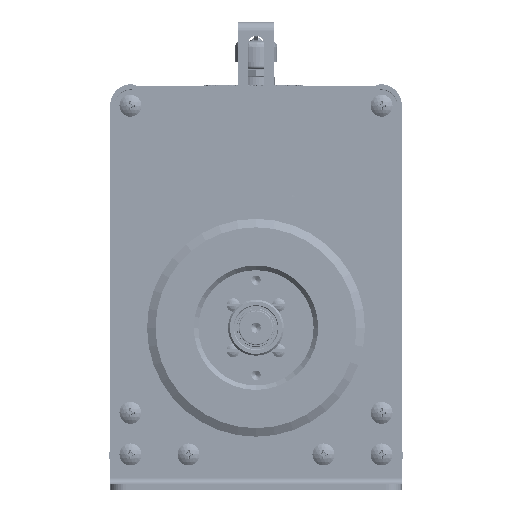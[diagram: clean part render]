
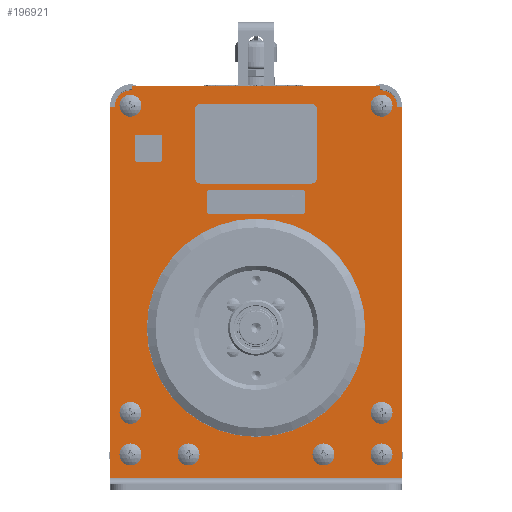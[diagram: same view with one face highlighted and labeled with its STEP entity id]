
A CAD part, front view. The second image highlights one B-rep face of the part: STEP entity #196921.
In plain terms, the highlighted planar face has unit normal (0, -1, 0).
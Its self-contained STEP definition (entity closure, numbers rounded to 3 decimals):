
#13753=LINE('',#389904,#34014);
#13754=LINE('',#389907,#34015);
#13755=LINE('',#389909,#34016);
#13756=LINE('',#389913,#34017);
#13757=LINE('',#389915,#34018);
#13758=LINE('',#389917,#34019);
#13759=LINE('',#389921,#34020);
#13760=LINE('',#389923,#34021);
#34014=VECTOR('',#263825,1000.);
#34015=VECTOR('',#263826,1000.);
#34016=VECTOR('',#263827,1000.);
#34017=VECTOR('',#263830,1000.);
#34018=VECTOR('',#263831,1000.);
#34019=VECTOR('',#263832,1000.);
#34020=VECTOR('',#263835,1000.);
#34021=VECTOR('',#263836,1000.);
#49858=PLANE('',#235013);
#82425=ORIENTED_EDGE('',*,*,#127519,.F.);
#82426=ORIENTED_EDGE('',*,*,#127499,.F.);
#82427=ORIENTED_EDGE('',*,*,#127501,.F.);
#82428=ORIENTED_EDGE('',*,*,#127503,.F.);
#82429=ORIENTED_EDGE('',*,*,#127505,.F.);
#82430=ORIENTED_EDGE('',*,*,#127507,.F.);
#82431=ORIENTED_EDGE('',*,*,#127509,.F.);
#82432=ORIENTED_EDGE('',*,*,#127511,.F.);
#82433=ORIENTED_EDGE('',*,*,#127518,.T.);
#82434=ORIENTED_EDGE('',*,*,#127520,.T.);
#82435=ORIENTED_EDGE('',*,*,#127521,.T.);
#82436=ORIENTED_EDGE('',*,*,#127522,.T.);
#82437=ORIENTED_EDGE('',*,*,#127523,.T.);
#82438=ORIENTED_EDGE('',*,*,#127524,.T.);
#82439=ORIENTED_EDGE('',*,*,#127525,.T.);
#82440=ORIENTED_EDGE('',*,*,#127526,.T.);
#82441=ORIENTED_EDGE('',*,*,#127527,.T.);
#82442=ORIENTED_EDGE('',*,*,#127528,.T.);
#82443=ORIENTED_EDGE('',*,*,#127529,.T.);
#127499=EDGE_CURVE('',#153093,#153093,#167188,.T.);
#127501=EDGE_CURVE('',#153095,#153095,#167190,.T.);
#127503=EDGE_CURVE('',#153097,#153097,#167192,.T.);
#127505=EDGE_CURVE('',#153099,#153099,#167194,.T.);
#127507=EDGE_CURVE('',#153101,#153101,#167196,.T.);
#127509=EDGE_CURVE('',#153103,#153103,#167198,.T.);
#127511=EDGE_CURVE('',#153105,#153105,#167200,.T.);
#127518=EDGE_CURVE('',#153112,#153112,#167207,.T.);
#127519=EDGE_CURVE('',#153113,#153113,#167208,.T.);
#127520=EDGE_CURVE('',#153114,#153115,#13753,.T.);
#127521=EDGE_CURVE('',#153115,#153116,#13754,.T.);
#127522=EDGE_CURVE('',#153116,#153117,#13755,.T.);
#127523=EDGE_CURVE('',#153117,#153118,#167209,.T.);
#127524=EDGE_CURVE('',#153118,#153119,#13756,.T.);
#127525=EDGE_CURVE('',#153119,#153120,#13757,.T.);
#127526=EDGE_CURVE('',#153120,#153121,#13758,.T.);
#127527=EDGE_CURVE('',#153121,#153122,#167210,.T.);
#127528=EDGE_CURVE('',#153122,#153123,#13759,.T.);
#127529=EDGE_CURVE('',#153123,#153114,#13760,.T.);
#153093=VERTEX_POINT('',#389783);
#153095=VERTEX_POINT('',#389788);
#153097=VERTEX_POINT('',#389793);
#153099=VERTEX_POINT('',#389798);
#153101=VERTEX_POINT('',#389803);
#153103=VERTEX_POINT('',#389808);
#153105=VERTEX_POINT('',#389813);
#153112=VERTEX_POINT('',#389900);
#153113=VERTEX_POINT('',#389903);
#153114=VERTEX_POINT('',#389905);
#153115=VERTEX_POINT('',#389906);
#153116=VERTEX_POINT('',#389908);
#153117=VERTEX_POINT('',#389910);
#153118=VERTEX_POINT('',#389912);
#153119=VERTEX_POINT('',#389914);
#153120=VERTEX_POINT('',#389916);
#153121=VERTEX_POINT('',#389918);
#153122=VERTEX_POINT('',#389920);
#153123=VERTEX_POINT('',#389922);
#167188=CIRCLE('',#234984,3.175);
#167190=CIRCLE('',#234987,3.175);
#167192=CIRCLE('',#234990,3.175);
#167194=CIRCLE('',#234993,3.175);
#167196=CIRCLE('',#234996,3.175);
#167198=CIRCLE('',#234999,3.175);
#167200=CIRCLE('',#235002,3.175);
#167207=CIRCLE('',#235012,53.975);
#167208=CIRCLE('',#235014,3.175);
#167209=CIRCLE('',#235015,7.938);
#167210=CIRCLE('',#235016,7.937);
#173262=EDGE_LOOP('',(#82425));
#173263=EDGE_LOOP('',(#82426));
#173264=EDGE_LOOP('',(#82427));
#173265=EDGE_LOOP('',(#82428));
#173266=EDGE_LOOP('',(#82429));
#173267=EDGE_LOOP('',(#82430));
#173268=EDGE_LOOP('',(#82431));
#173269=EDGE_LOOP('',(#82432));
#173270=EDGE_LOOP('',(#82433));
#173271=EDGE_LOOP('',(#82434,#82435,#82436,#82437,#82438,#82439,#82440,
#82441,#82442,#82443));
#185172=FACE_BOUND('',#173262,.T.);
#185173=FACE_BOUND('',#173263,.T.);
#185174=FACE_BOUND('',#173264,.T.);
#185175=FACE_BOUND('',#173265,.T.);
#185176=FACE_BOUND('',#173266,.T.);
#185177=FACE_BOUND('',#173267,.T.);
#185178=FACE_BOUND('',#173268,.T.);
#185179=FACE_BOUND('',#173269,.T.);
#185180=FACE_BOUND('',#173270,.T.);
#185181=FACE_BOUND('',#173271,.T.);
#196921=ADVANCED_FACE('',(#185172,#185173,#185174,#185175,#185176,#185177,
#185178,#185179,#185180,#185181),#49858,.T.);
#234984=AXIS2_PLACEMENT_3D('',#389782,#263763,#263764);
#234987=AXIS2_PLACEMENT_3D('',#389787,#263769,#263770);
#234990=AXIS2_PLACEMENT_3D('',#389792,#263775,#263776);
#234993=AXIS2_PLACEMENT_3D('',#389797,#263781,#263782);
#234996=AXIS2_PLACEMENT_3D('',#389802,#263787,#263788);
#234999=AXIS2_PLACEMENT_3D('',#389807,#263793,#263794);
#235002=AXIS2_PLACEMENT_3D('',#389812,#263799,#263800);
#235012=AXIS2_PLACEMENT_3D('',#389899,#263819,#263820);
#235013=AXIS2_PLACEMENT_3D('',#389901,#263821,#263822);
#235014=AXIS2_PLACEMENT_3D('',#389902,#263823,#263824);
#235015=AXIS2_PLACEMENT_3D('',#389911,#263828,#263829);
#235016=AXIS2_PLACEMENT_3D('',#389919,#263833,#263834);
#263763=DIRECTION('',(0.,-1.,0.));
#263764=DIRECTION('',(1.,0.,0.));
#263769=DIRECTION('',(0.,-1.,0.));
#263770=DIRECTION('',(1.,0.,0.));
#263775=DIRECTION('',(0.,-1.,0.));
#263776=DIRECTION('',(1.,0.,0.));
#263781=DIRECTION('',(0.,-1.,0.));
#263782=DIRECTION('',(1.,0.,0.));
#263787=DIRECTION('',(0.,-1.,0.));
#263788=DIRECTION('',(1.,0.,0.));
#263793=DIRECTION('',(0.,-1.,0.));
#263794=DIRECTION('',(1.,0.,0.));
#263799=DIRECTION('',(0.,-1.,0.));
#263800=DIRECTION('',(1.,0.,0.));
#263819=DIRECTION('',(0.,1.,0.));
#263820=DIRECTION('',(1.,0.,0.));
#263821=DIRECTION('',(0.,-1.,0.));
#263822=DIRECTION('',(0.,0.,1.));
#263823=DIRECTION('',(0.,-1.,0.));
#263824=DIRECTION('',(1.,0.,0.));
#263825=DIRECTION('',(1.,0.,0.));
#263826=DIRECTION('',(0.,0.,1.));
#263827=DIRECTION('',(-1.,0.,0.));
#263828=DIRECTION('',(0.,-1.,0.));
#263829=DIRECTION('',(0.996,0.,-0.093));
#263830=DIRECTION('',(0.,0.,1.));
#263831=DIRECTION('',(-1.,0.,0.));
#263832=DIRECTION('',(0.,0.,-1.));
#263833=DIRECTION('',(0.,-1.,0.));
#263834=DIRECTION('',(0.099,0.,0.995));
#263835=DIRECTION('',(-1.,0.,0.));
#263836=DIRECTION('',(0.,0.,-1.));
#389782=CARTESIAN_POINT('',(-65.075,11.112,115.062));
#389783=CARTESIAN_POINT('',(-61.9,11.112,115.062));
#389787=CARTESIAN_POINT('',(-65.075,11.112,-44.069));
#389788=CARTESIAN_POINT('',(-61.9,11.112,-44.069));
#389792=CARTESIAN_POINT('',(-65.075,11.112,-65.659));
#389793=CARTESIAN_POINT('',(-61.9,11.112,-65.659));
#389797=CARTESIAN_POINT('',(-34.925,11.112,-65.659));
#389798=CARTESIAN_POINT('',(-31.75,11.112,-65.659));
#389802=CARTESIAN_POINT('',(34.925,11.112,-65.659));
#389803=CARTESIAN_POINT('',(38.1,11.112,-65.659));
#389807=CARTESIAN_POINT('',(65.075,11.112,-44.069));
#389808=CARTESIAN_POINT('',(68.25,11.112,-44.069));
#389812=CARTESIAN_POINT('',(65.075,11.112,-65.659));
#389813=CARTESIAN_POINT('',(68.25,11.112,-65.659));
#389899=CARTESIAN_POINT('',(0.,11.112,0.));
#389900=CARTESIAN_POINT('',(53.975,11.112,0.));
#389901=CARTESIAN_POINT('',(79.21,11.112,-89.313));
#389902=CARTESIAN_POINT('',(65.075,11.112,115.062));
#389903=CARTESIAN_POINT('',(68.25,11.112,115.062));
#389904=CARTESIAN_POINT('',(-75.438,11.112,-77.724));
#389905=CARTESIAN_POINT('',(-75.438,11.112,-77.724));
#389906=CARTESIAN_POINT('',(75.438,11.112,-77.724));
#389907=CARTESIAN_POINT('',(75.438,11.112,-77.724));
#389908=CARTESIAN_POINT('',(75.438,11.112,114.325));
#389909=CARTESIAN_POINT('',(75.438,11.112,114.325));
#389910=CARTESIAN_POINT('',(72.978,11.112,114.325));
#389911=CARTESIAN_POINT('',(65.075,11.112,115.062));
#389912=CARTESIAN_POINT('',(64.287,11.112,122.96));
#389913=CARTESIAN_POINT('',(64.287,11.112,122.96));
#389914=CARTESIAN_POINT('',(64.287,11.112,125.476));
#389915=CARTESIAN_POINT('',(64.287,11.112,125.476));
#389916=CARTESIAN_POINT('',(-64.287,11.112,125.476));
#389917=CARTESIAN_POINT('',(-64.287,11.112,125.476));
#389918=CARTESIAN_POINT('',(-64.287,11.112,122.96));
#389919=CARTESIAN_POINT('',(-65.075,11.112,115.062));
#389920=CARTESIAN_POINT('',(-72.978,11.112,114.325));
#389921=CARTESIAN_POINT('',(-72.978,11.112,114.325));
#389922=CARTESIAN_POINT('',(-75.438,11.112,114.325));
#389923=CARTESIAN_POINT('',(-75.438,11.112,114.325));
